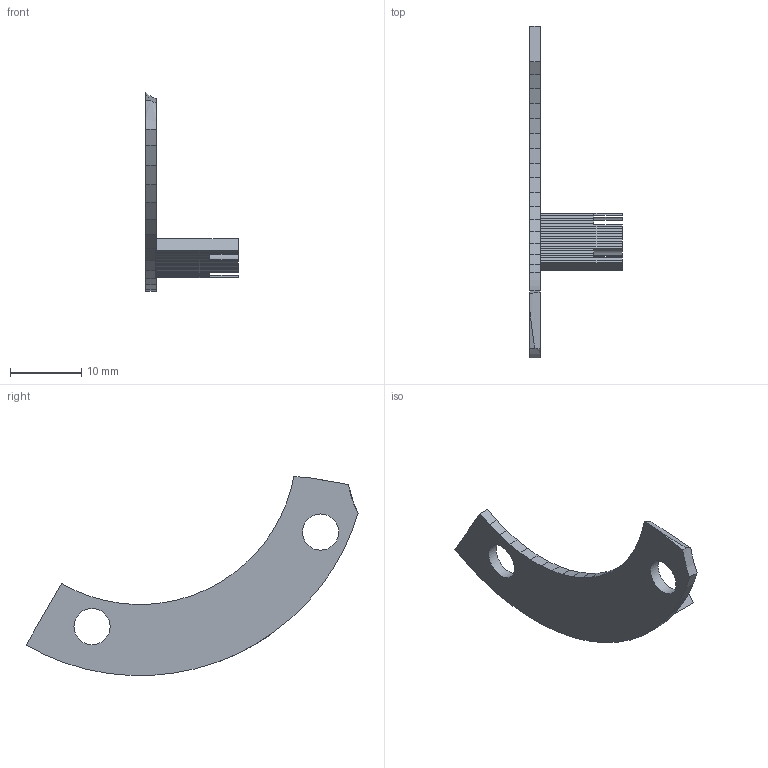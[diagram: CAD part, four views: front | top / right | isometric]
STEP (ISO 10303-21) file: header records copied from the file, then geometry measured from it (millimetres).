
FILE_DESCRIPTION(('Open CASCADE Model'),'2;1');
FILE_NAME('B3_R12_front_support_and_carrier','2026-09-28T18:24:08',( 'Author'),('Open CASCADE'),'Open CASCADE STEP processor 7.9', 'build123d','Unknown');
FILE_SCHEMA(('AUTOMOTIVE_DESIGN { 1 0 10303 214 1 1 1 1 }'));
Length unit declared in the file: millimetre
Products named in the file (1): B3_R12_front_support_and_carrier
Bounding box: 13 x 46.63 x 27.93 mm (x, y, z)
Volume: 855.7 mm3; surface area: 1405.4 mm2
Topology: 1 solids, 1 shells, 104 faces, 303 edges, 201 vertices
Faces by surface type: plane 95, cylinder 9
Full cylindrical faces by diameter (mm): 5.08 x2
Entity records: 7242 total; most frequent: CARTESIAN_POINT 1370, DIRECTION 1006, LINE 742, VECTOR 742, ORIENTED_EDGE 606, PCURVE 606, DEFINITIONAL_REPRESENTATION 606, EDGE_CURVE 303
